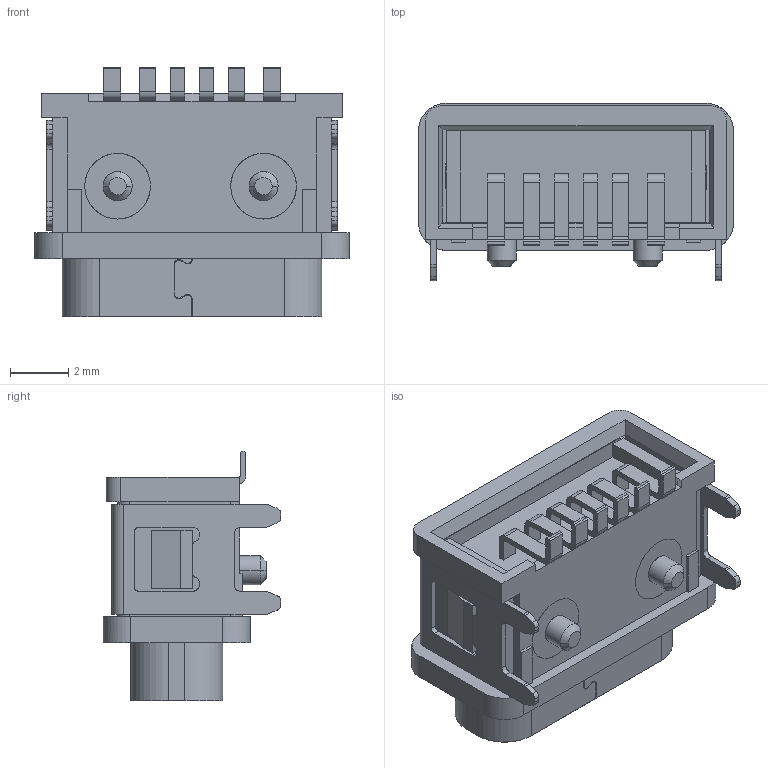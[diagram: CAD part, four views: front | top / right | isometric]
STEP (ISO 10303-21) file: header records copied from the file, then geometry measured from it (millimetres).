
FILE_DESCRIPTION (( 'STEP AP203' ), '1' );
FILE_NAME ('U5008-06PN2.0V7.7LF.STEP', '2026-09-21T03:17:04', ( '' ), ( '' ), 'SwSTEP 2.0', 'SolidWorks 2024', '' );
FILE_SCHEMA (( 'CONFIG_CONTROL_DESIGN' ));
Products named in the file (1): U5008-06PN2.0V7.7LF
Bounding box: 10.84 x 6.11 x 8.6 mm (x, y, z)
Surface area: 4014.6 mm2 (no closed solid volume)
Topology: 0 solids, 181 shells, 1992 faces, 9389 edges, 7357 vertices
Faces by surface type: plane 1487, cylinder 416, cone 64, bspline 25
Entity records: 97927 total; most frequent: CARTESIAN_POINT 26608, ORIENTED_EDGE 13817, DIRECTION 12613, EDGE_CURVE 9381, VERTEX_POINT 7357, VECTOR 6953, LINE 6953, AXIS2_PLACEMENT_3D 2830
